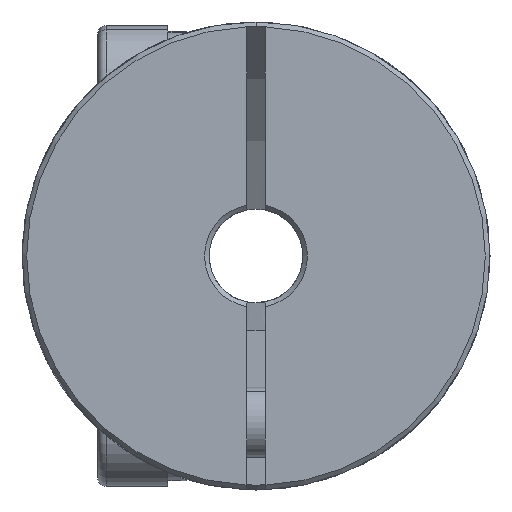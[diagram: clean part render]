
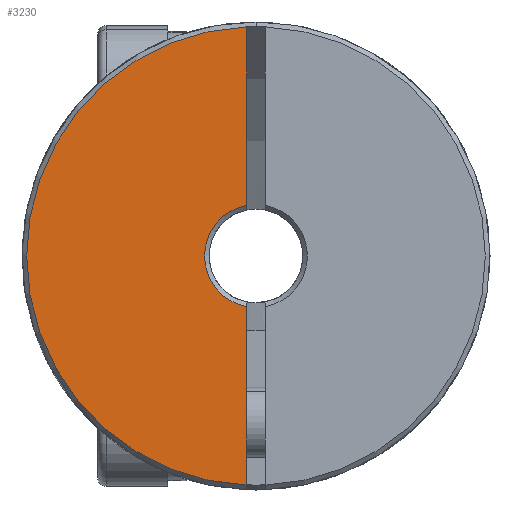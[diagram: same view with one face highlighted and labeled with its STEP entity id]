
A CAD part, front view. The second image highlights one B-rep face of the part: STEP entity #3230.
In plain terms, the highlighted planar face has unit normal (0, -1, 0).
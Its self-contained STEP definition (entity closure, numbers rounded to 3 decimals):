
#378 = DIRECTION ( 'NONE',  ( 0., -1., 0. ) ) ;
#412 = VERTEX_POINT ( 'NONE', #608 ) ;
#480 = ORIENTED_EDGE ( 'NONE', *, *, #3559, .F. ) ;
#498 = AXIS2_PLACEMENT_3D ( 'NONE', #1675, #6938, #3423 ) ;
#608 = CARTESIAN_POINT ( 'NONE',  ( -0.4, -17.5, -2.163 ) ) ;
#619 = CARTESIAN_POINT ( 'NONE',  ( -0.4, -17.5, 2.163 ) ) ;
#650 = VECTOR ( 'NONE', #3630, 1000. ) ;
#833 = AXIS2_PLACEMENT_3D ( 'NONE', #2030, #6111, #4339 ) ;
#946 = LINE ( 'NONE', #6490, #650 ) ;
#1025 = EDGE_CURVE ( 'NONE', #412, #2371, #1889, .T. ) ;
#1147 = EDGE_CURVE ( 'NONE', #2880, #4607, #3506, .T. ) ;
#1533 = CARTESIAN_POINT ( 'NONE',  ( 0., -17.5, 0. ) ) ;
#1672 = FACE_OUTER_BOUND ( 'NONE', #7214, .T. ) ;
#1675 = CARTESIAN_POINT ( 'NONE',  ( 0., -17.5, 0. ) ) ;
#1889 = CIRCLE ( 'NONE', #833, 2.2 ) ;
#2030 = CARTESIAN_POINT ( 'NONE',  ( 0., -17.5, 0. ) ) ;
#2228 = PLANE ( 'NONE',  #498 ) ;
#2309 = CARTESIAN_POINT ( 'NONE',  ( -0.4, -17.5, 0. ) ) ;
#2371 = VERTEX_POINT ( 'NONE', #619 ) ;
#2703 = ORIENTED_EDGE ( 'NONE', *, *, #1147, .T. ) ;
#2841 = LINE ( 'NONE', #2309, #5199 ) ;
#2868 = DIRECTION ( 'NONE',  ( 0., 0., -1. ) ) ;
#2880 = VERTEX_POINT ( 'NONE', #2943 ) ;
#2943 = CARTESIAN_POINT ( 'NONE',  ( -0.4, -17.5, 9.792 ) ) ;
#3164 = ORIENTED_EDGE ( 'NONE', *, *, #1025, .T. ) ;
#3230 = ADVANCED_FACE ( 'NONE', ( #1672 ), #2228, .F. ) ;
#3423 = DIRECTION ( 'NONE',  ( 0., 0., 1. ) ) ;
#3506 = CIRCLE ( 'NONE', #5115, 9.8 ) ;
#3559 = EDGE_CURVE ( 'NONE', #2880, #2371, #946, .T. ) ;
#3630 = DIRECTION ( 'NONE',  ( 0., 0., -1. ) ) ;
#3891 = DIRECTION ( 'NONE',  ( 0., 0., 1. ) ) ;
#4036 = EDGE_CURVE ( 'NONE', #412, #4607, #2841, .T. ) ;
#4339 = DIRECTION ( 'NONE',  ( 0., 0., 1. ) ) ;
#4607 = VERTEX_POINT ( 'NONE', #5239 ) ;
#4798 = ORIENTED_EDGE ( 'NONE', *, *, #4036, .F. ) ;
#5115 = AXIS2_PLACEMENT_3D ( 'NONE', #1533, #378, #3891 ) ;
#5199 = VECTOR ( 'NONE', #2868, 1000. ) ;
#5239 = CARTESIAN_POINT ( 'NONE',  ( -0.4, -17.5, -9.792 ) ) ;
#6111 = DIRECTION ( 'NONE',  ( 0., 1., 0. ) ) ;
#6490 = CARTESIAN_POINT ( 'NONE',  ( -0.4, -17.5, 0. ) ) ;
#6938 = DIRECTION ( 'NONE',  ( 0., 1., 0. ) ) ;
#7214 = EDGE_LOOP ( 'NONE', ( #480, #2703, #4798, #3164 ) ) ;
